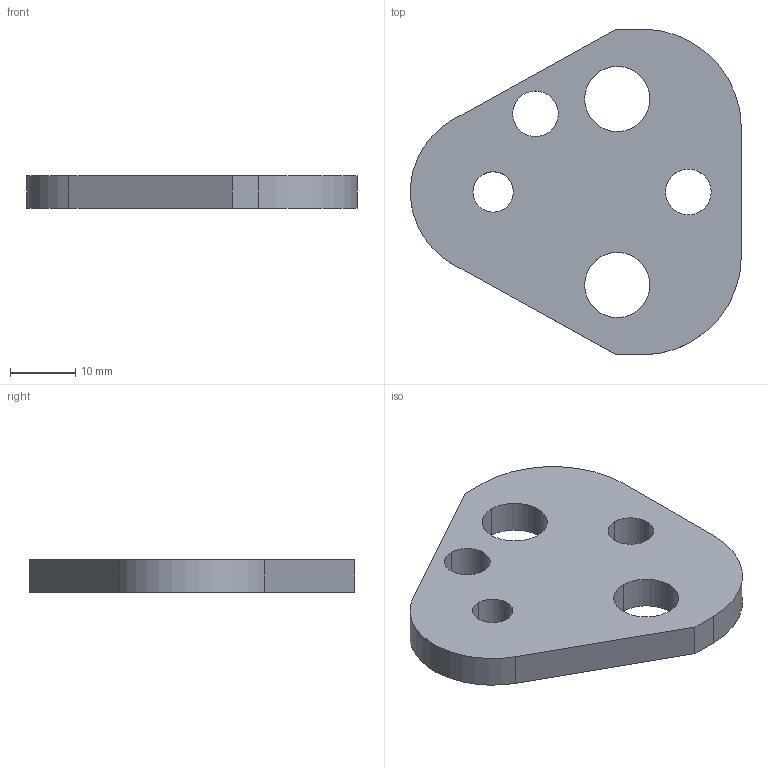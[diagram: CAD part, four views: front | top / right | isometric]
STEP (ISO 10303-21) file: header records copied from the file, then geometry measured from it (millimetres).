
FILE_DESCRIPTION(/* description */ (''),/* implementation_level */ '2;1');
FILE_NAME(/* name */ '3d_crnbp13_03638_r00.stp',/* time_stamp */ '2011-01-10T14:16:19+09:00',/* author */ ('MISUMI'),/* organization */ (''),/* preprocessor_version */ 'ST-DEVELOPER v11',/* originating_system */ 'UGS - NX 5.0',/* authorisation */ '');
FILE_SCHEMA (('CONFIG_CONTROL_DESIGN'));
Length unit declared in the file: millimetre
Products named in the file (1): 3d_crnbp13_03638_r00
Bounding box: 50.76 x 50 x 5 mm (x, y, z)
Volume: 8023 mm3; surface area: 4639.1 mm2
Topology: 1 solids, 1 shells, 20 faces, 54 edges, 36 vertices
Faces by surface type: cylinder 13, plane 7
Entity records: 750 total; most frequent: DIRECTION 122, CARTESIAN_POINT 111, ORIENTED_EDGE 108, EDGE_CURVE 54, AXIS2_PLACEMENT_3D 47, VERTEX_POINT 36, EDGE_LOOP 30, LINE 28
